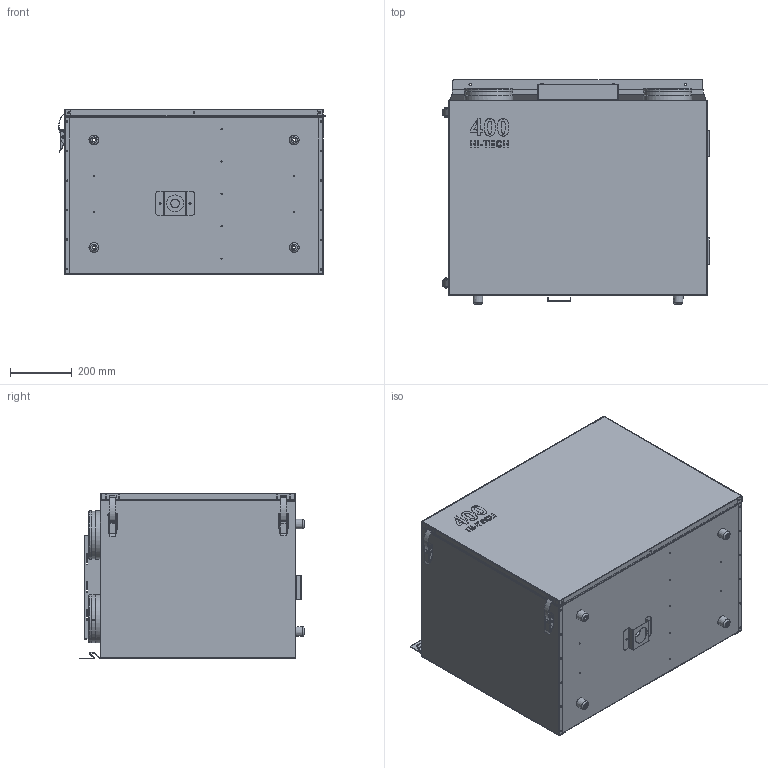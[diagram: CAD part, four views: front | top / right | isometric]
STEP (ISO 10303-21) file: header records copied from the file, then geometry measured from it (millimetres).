
FILE_DESCRIPTION(/* description */ ('Unknown'),/* implementation_level */ '2;1');
FILE_NAME(/* name */ '400 V',/* time_stamp */ '2025-11-27T12:08:55+01:00',/* author */ ('Unknown'),/* organization */ ('Unknown'),/* preprocessor_version */ 'ST-DEVELOPER v16.7',/* originating_system */ 'DEX',/* authorisation */ $);
FILE_SCHEMA (('AUTOMOTIVE_DESIGN {1 0 10303 214 3 1 1}'));
Length unit declared in the file: millimetre
Products named in the file (14): 400 V; stopka; Pokrywka sterowania 8; drzwi zew V; tyl dol skos; drzwi wewn V_H; wieszak; moc reku sciana nowy; moc reku ty³ nowy; obudowa V; Burta; Uchwyt syfonu_2stronny; zawias duzy; Kolnierz 160_pk
Assembly tree (21 placements, depth 3):
  400 V
    stopka  x4
    Pokrywka sterowania 8
    drzwi zew V
    tyl dol skos
    drzwi wewn V_H
    wieszak
      moc reku sciana nowy
      moc reku ty³ nowy
    obudowa V
    Burta  x2
    Uchwyt syfonu_2stronny
    zawias duzy  x2
    Kolnierz 160_pk  x4
Bounding box: 865.96 x 727.13 x 538.5 mm (x, y, z)
Volume: 3713257.4 mm3; surface area: 7541490.7 mm2
Topology: 28 solids, 28 shells, 1507 faces, 4112 edges, 2689 vertices
Faces by surface type: plane 790, cylinder 507, bspline 154, torus 40, cone 16
Full cylindrical faces by diameter (mm): 3.5 x4, 3.7 x9, 4 x4, 4.1 x12, 4.2 x2, 4.5 x17, 4.6 x12, 4.7 x66, 5 x28, 5.3 x4, 6 x2, 6.5 x5, 7.4 x14, 8.5 x4, 9 x4, 10 x4, 13 x2, 28 x1, 55 x1, 150.986 x4, 154.557 x4, 157 x8, 160 x4, 185 x4
Entity records: 33398 total; most frequent: CARTESIAN_POINT 7556, DIRECTION 5056, ORIENTED_EDGE 5050, EDGE_CURVE 2525, VERTEX_POINT 1729, AXIS2_PLACEMENT_3D 1724, LINE 1608, VECTOR 1608
